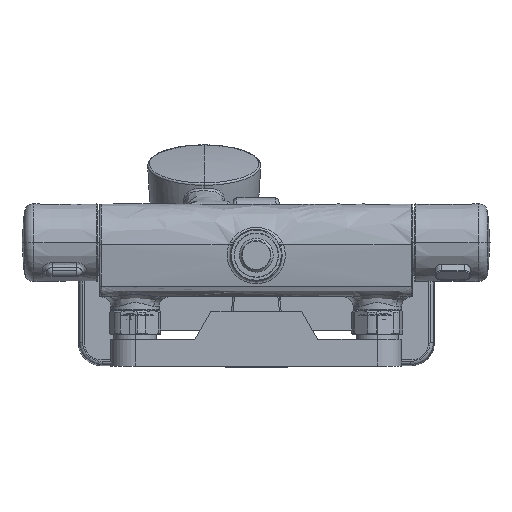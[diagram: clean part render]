
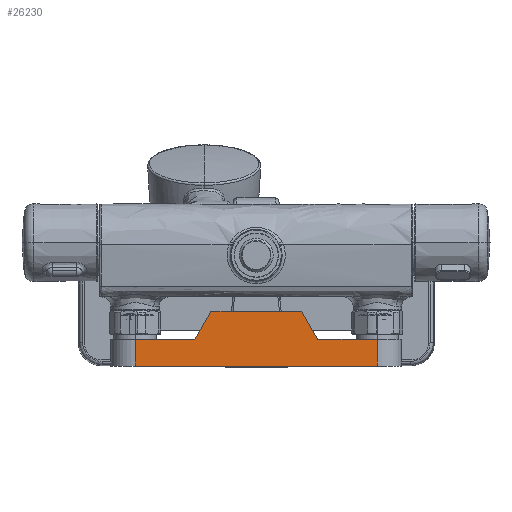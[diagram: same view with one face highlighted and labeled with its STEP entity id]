
A CAD part, front view. The second image highlights one B-rep face of the part: STEP entity #26230.
In plain terms, the highlighted planar face has unit normal (0, -1, 0).
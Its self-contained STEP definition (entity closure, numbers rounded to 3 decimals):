
#12 = VERTEX_POINT ( 'NONE', #4645 ) ;
#15 = PLANE ( 'NONE',  #23341 ) ;
#161 = VECTOR ( 'NONE', #5681, 1000. ) ;
#213 = LINE ( 'NONE', #5652, #161 ) ;
#1360 = VERTEX_POINT ( 'NONE', #12208 ) ;
#2456 = CARTESIAN_POINT ( 'NONE',  ( -75., -435., 17.223 ) ) ;
#2459 = EDGE_CURVE ( 'NONE', #9689, #21830, #4083, .T. ) ;
#2567 = CARTESIAN_POINT ( 'NONE',  ( 39.791, -435., 14.295 ) ) ;
#2862 = DIRECTION ( 'NONE',  ( -0.5, 0., 0.866 ) ) ;
#3175 = ORIENTED_EDGE ( 'NONE', *, *, #4441, .T. ) ;
#3213 = ORIENTED_EDGE ( 'NONE', *, *, #9047, .T. ) ;
#3230 = EDGE_LOOP ( 'NONE', ( #4324, #3175, #9332, #3213, #9297, #21945, #21280, #15295 ) ) ;
#4061 = VECTOR ( 'NONE', #17026, 1000. ) ;
#4083 = LINE ( 'NONE', #17116, #4061 ) ;
#4309 = VECTOR ( 'NONE', #7924, 1000. ) ;
#4324 = ORIENTED_EDGE ( 'NONE', *, *, #9113, .T. ) ;
#4363 = EDGE_CURVE ( 'NONE', #21830, #12, #213, .T. ) ;
#4404 = VERTEX_POINT ( 'NONE', #4929 ) ;
#4441 = EDGE_CURVE ( 'NONE', #4404, #17983, #23827, .T. ) ;
#4645 = CARTESIAN_POINT ( 'NONE',  ( -75., -435., 0.623 ) ) ;
#4929 = CARTESIAN_POINT ( 'NONE',  ( 38.1, -435., 17.223 ) ) ;
#5652 = CARTESIAN_POINT ( 'NONE',  ( 75., -435., 0.623 ) ) ;
#5681 = DIRECTION ( 'NONE',  ( -1., 0., 0. ) ) ;
#5914 = VECTOR ( 'NONE', #11959, 1000. ) ;
#5921 = LINE ( 'NONE', #22152, #4309 ) ;
#7924 = DIRECTION ( 'NONE',  ( -1., 0., 0. ) ) ;
#8118 = LINE ( 'NONE', #24110, #5914 ) ;
#9047 = EDGE_CURVE ( 'NONE', #19537, #1360, #11470, .T. ) ;
#9113 = EDGE_CURVE ( 'NONE', #9689, #4404, #10827, .T. ) ;
#9297 = ORIENTED_EDGE ( 'NONE', *, *, #18766, .T. ) ;
#9332 = ORIENTED_EDGE ( 'NONE', *, *, #18735, .T. ) ;
#9689 = VERTEX_POINT ( 'NONE', #19891 ) ;
#10287 = FACE_OUTER_BOUND ( 'NONE', #3230, .T. ) ;
#10500 = DIRECTION ( 'NONE',  ( 0., 0., 1. ) ) ;
#10827 = LINE ( 'NONE', #10870, #10882 ) ;
#10870 = CARTESIAN_POINT ( 'NONE',  ( 75., -435., 17.223 ) ) ;
#10882 = VECTOR ( 'NONE', #11144, 1000. ) ;
#11075 = VECTOR ( 'NONE', #11415, 1000. ) ;
#11144 = DIRECTION ( 'NONE',  ( -1., 0., 0. ) ) ;
#11323 = CARTESIAN_POINT ( 'NONE',  ( -2.291, -435., 79.247 ) ) ;
#11415 = DIRECTION ( 'NONE',  ( -0.5, 0., -0.866 ) ) ;
#11470 = LINE ( 'NONE', #11323, #11075 ) ;
#11959 = DIRECTION ( 'NONE',  ( -1., 0., 0. ) ) ;
#12066 = CARTESIAN_POINT ( 'NONE',  ( -75., -435., 34.623 ) ) ;
#12208 = CARTESIAN_POINT ( 'NONE',  ( -38.1, -435., 17.223 ) ) ;
#12904 = CARTESIAN_POINT ( 'NONE',  ( -28.054, -435., 34.623 ) ) ;
#13450 = CARTESIAN_POINT ( 'NONE',  ( 75., -435., 0.623 ) ) ;
#14835 = VECTOR ( 'NONE', #16128, 1000. ) ;
#14873 = CARTESIAN_POINT ( 'NONE',  ( 28.054, -435., 34.623 ) ) ;
#15295 = ORIENTED_EDGE ( 'NONE', *, *, #2459, .F. ) ;
#16128 = DIRECTION ( 'NONE',  ( 0., 0., -1. ) ) ;
#17026 = DIRECTION ( 'NONE',  ( 0., 0., -1. ) ) ;
#17116 = CARTESIAN_POINT ( 'NONE',  ( 75., -435., 34.623 ) ) ;
#17419 = LINE ( 'NONE', #12066, #14835 ) ;
#17983 = VERTEX_POINT ( 'NONE', #14873 ) ;
#18735 = EDGE_CURVE ( 'NONE', #17983, #19537, #8118, .T. ) ;
#18766 = EDGE_CURVE ( 'NONE', #1360, #19467, #5921, .T. ) ;
#19467 = VERTEX_POINT ( 'NONE', #2456 ) ;
#19537 = VERTEX_POINT ( 'NONE', #12904 ) ;
#19891 = CARTESIAN_POINT ( 'NONE',  ( 75., -435., 17.223 ) ) ;
#20439 = VECTOR ( 'NONE', #2862, 1000. ) ;
#20647 = CARTESIAN_POINT ( 'NONE',  ( 75., -435., 34.623 ) ) ;
#21280 = ORIENTED_EDGE ( 'NONE', *, *, #4363, .F. ) ;
#21830 = VERTEX_POINT ( 'NONE', #13450 ) ;
#21945 = ORIENTED_EDGE ( 'NONE', *, *, #25719, .T. ) ;
#22152 = CARTESIAN_POINT ( 'NONE',  ( 75., -435., 17.223 ) ) ;
#22669 = DIRECTION ( 'NONE',  ( 0., -1., 0. ) ) ;
#23341 = AXIS2_PLACEMENT_3D ( 'NONE', #20647, #22669, #10500 ) ;
#23827 = LINE ( 'NONE', #2567, #20439 ) ;
#24110 = CARTESIAN_POINT ( 'NONE',  ( 75., -435., 34.623 ) ) ;
#25719 = EDGE_CURVE ( 'NONE', #19467, #12, #17419, .T. ) ;
#26230 = ADVANCED_FACE ( 'NONE', ( #10287 ), #15, .T. ) ;
